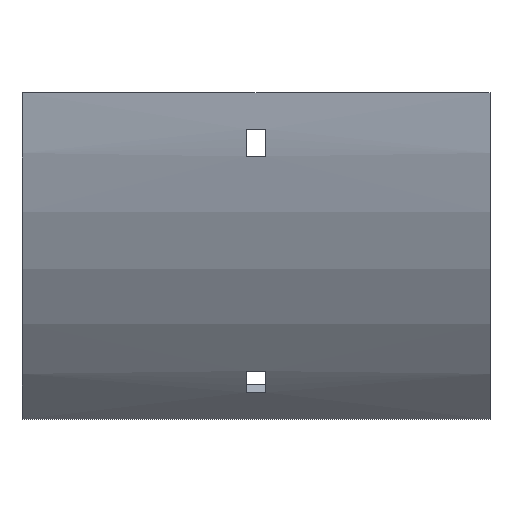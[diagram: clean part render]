
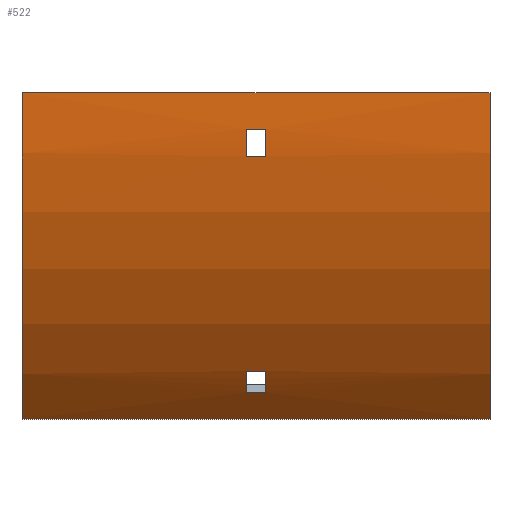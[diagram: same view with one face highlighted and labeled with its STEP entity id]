
A CAD part, front view. The second image highlights one B-rep face of the part: STEP entity #522.
In plain terms, the highlighted cylindrical face has radius 152 mm (diameter 304 mm), a partial arc.
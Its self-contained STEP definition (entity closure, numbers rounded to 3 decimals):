
#2 = LINE ( 'NONE', #364, #858 ) ;
#9 = CARTESIAN_POINT ( 'NONE',  ( -3.25, -21.299, -91.6 ) ) ;
#10 = FACE_OUTER_BOUND ( 'NONE', #1123, .T. ) ;
#12 = VECTOR ( 'NONE', #760, 1000. ) ;
#19 = CARTESIAN_POINT ( 'NONE',  ( -77., -52., 0. ) ) ;
#21 = CARTESIAN_POINT ( 'NONE',  ( -3.25, -50.542, -21. ) ) ;
#25 = CARTESIAN_POINT ( 'NONE',  ( 77., -7.48, -107.48 ) ) ;
#38 = EDGE_CURVE ( 'NONE', #705, #335, #758, .T. ) ;
#60 = EDGE_CURVE ( 'NONE', #719, #1150, #2, .T. ) ;
#67 = AXIS2_PLACEMENT_3D ( 'NONE', #755, #847, #321 ) ;
#87 = LINE ( 'NONE', #174, #186 ) ;
#91 = CARTESIAN_POINT ( 'NONE',  ( 77., 100., 0. ) ) ;
#94 = VERTEX_POINT ( 'NONE', #19 ) ;
#96 = DIRECTION ( 'NONE',  ( 1., 0., 0. ) ) ;
#116 = CARTESIAN_POINT ( 'NONE',  ( 77., -21.299, -91.6 ) ) ;
#140 = LINE ( 'NONE', #672, #12 ) ;
#174 = CARTESIAN_POINT ( 'NONE',  ( 77., -15.63, -98.659 ) ) ;
#178 = EDGE_CURVE ( 'NONE', #94, #1150, #906, .T. ) ;
#185 = AXIS2_PLACEMENT_3D ( 'NONE', #91, #534, #977 ) ;
#186 = VECTOR ( 'NONE', #96, 1000. ) ;
#190 = ORIENTED_EDGE ( 'NONE', *, *, #1007, .F. ) ;
#202 = EDGE_CURVE ( 'NONE', #399, #705, #585, .T. ) ;
#206 = AXIS2_PLACEMENT_3D ( 'NONE', #762, #601, #350 ) ;
#226 = CARTESIAN_POINT ( 'NONE',  ( -3.25, 100., 0. ) ) ;
#247 = VERTEX_POINT ( 'NONE', #21 ) ;
#252 = CIRCLE ( 'NONE', #1065, 152. ) ;
#263 = AXIS2_PLACEMENT_3D ( 'NONE', #443, #794, #358 ) ;
#270 = EDGE_CURVE ( 'NONE', #247, #399, #552, .T. ) ;
#291 = ORIENTED_EDGE ( 'NONE', *, *, #270, .T. ) ;
#321 = DIRECTION ( 'NONE',  ( 0., 0., 1. ) ) ;
#335 = VERTEX_POINT ( 'NONE', #936 ) ;
#345 = AXIS2_PLACEMENT_3D ( 'NONE', #384, #803, #547 ) ;
#350 = DIRECTION ( 'NONE',  ( 0., 0., -1. ) ) ;
#358 = DIRECTION ( 'NONE',  ( 0., 0., -1. ) ) ;
#364 = CARTESIAN_POINT ( 'NONE',  ( 77., -7.48, -107.48 ) ) ;
#384 = CARTESIAN_POINT ( 'NONE',  ( 3.25, 100., 0. ) ) ;
#388 = DIRECTION ( 'NONE',  ( -1., 0., 0. ) ) ;
#394 = DIRECTION ( 'NONE',  ( -1., 0., 0. ) ) ;
#399 = VERTEX_POINT ( 'NONE', #482 ) ;
#406 = VECTOR ( 'NONE', #577, 1000. ) ;
#417 = VERTEX_POINT ( 'NONE', #941 ) ;
#419 = EDGE_CURVE ( 'NONE', #335, #247, #140, .T. ) ;
#421 = ORIENTED_EDGE ( 'NONE', *, *, #419, .T. ) ;
#441 = ORIENTED_EDGE ( 'NONE', *, *, #1127, .F. ) ;
#443 = CARTESIAN_POINT ( 'NONE',  ( 3.25, 100., 0. ) ) ;
#451 = FACE_BOUND ( 'NONE', #903, .T. ) ;
#482 = CARTESIAN_POINT ( 'NONE',  ( -3.25, -51.526, -12. ) ) ;
#522 = ADVANCED_FACE ( 'NONE', ( #10, #795, #451 ), #727, .T. ) ;
#534 = DIRECTION ( 'NONE',  ( -1., 0., 0. ) ) ;
#542 = VERTEX_POINT ( 'NONE', #776 ) ;
#547 = DIRECTION ( 'NONE',  ( 0., 0., 1. ) ) ;
#552 = CIRCLE ( 'NONE', #67, 152. ) ;
#577 = DIRECTION ( 'NONE',  ( 1., 0., 0. ) ) ;
#581 = DIRECTION ( 'NONE',  ( 0., 0., -1. ) ) ;
#585 = LINE ( 'NONE', #999, #406 ) ;
#600 = ORIENTED_EDGE ( 'NONE', *, *, #38, .T. ) ;
#601 = DIRECTION ( 'NONE',  ( 1., 0., 0. ) ) ;
#625 = CARTESIAN_POINT ( 'NONE',  ( 3.25, -51.526, -12. ) ) ;
#672 = CARTESIAN_POINT ( 'NONE',  ( 77., -50.542, -21. ) ) ;
#681 = AXIS2_PLACEMENT_3D ( 'NONE', #832, #737, #1025 ) ;
#703 = EDGE_CURVE ( 'NONE', #417, #542, #842, .T. ) ;
#705 = VERTEX_POINT ( 'NONE', #625 ) ;
#719 = VERTEX_POINT ( 'NONE', #25 ) ;
#726 = CARTESIAN_POINT ( 'NONE',  ( -77., -7.48, -107.48 ) ) ;
#727 = CYLINDRICAL_SURFACE ( 'NONE', #185, 152. ) ;
#735 = EDGE_LOOP ( 'NONE', ( #421, #291, #783, #600 ) ) ;
#737 = DIRECTION ( 'NONE',  ( 1., 0., 0. ) ) ;
#744 = CARTESIAN_POINT ( 'NONE',  ( 77., -52., 0. ) ) ;
#755 = CARTESIAN_POINT ( 'NONE',  ( -3.25, 100., 0. ) ) ;
#758 = CIRCLE ( 'NONE', #263, 152. ) ;
#760 = DIRECTION ( 'NONE',  ( -1., 0., 0. ) ) ;
#762 = CARTESIAN_POINT ( 'NONE',  ( 77., 100., 0. ) ) ;
#767 = VECTOR ( 'NONE', #394, 1000. ) ;
#776 = CARTESIAN_POINT ( 'NONE',  ( 3.25, -21.299, -91.6 ) ) ;
#783 = ORIENTED_EDGE ( 'NONE', *, *, #202, .T. ) ;
#794 = DIRECTION ( 'NONE',  ( 1., 0., 0. ) ) ;
#795 = FACE_BOUND ( 'NONE', #735, .T. ) ;
#803 = DIRECTION ( 'NONE',  ( -1., 0., 0. ) ) ;
#819 = VECTOR ( 'NONE', #388, 1000. ) ;
#823 = EDGE_CURVE ( 'NONE', #542, #1121, #1104, .T. ) ;
#832 = CARTESIAN_POINT ( 'NONE',  ( -77., 100., 0. ) ) ;
#842 = CIRCLE ( 'NONE', #345, 152. ) ;
#847 = DIRECTION ( 'NONE',  ( -1., 0., 0. ) ) ;
#858 = VECTOR ( 'NONE', #1070, 1000. ) ;
#860 = ORIENTED_EDGE ( 'NONE', *, *, #178, .T. ) ;
#899 = EDGE_CURVE ( 'NONE', #1020, #94, #1023, .T. ) ;
#901 = EDGE_CURVE ( 'NONE', #1121, #1043, #252, .T. ) ;
#903 = EDGE_LOOP ( 'NONE', ( #1060, #1034, #1130, #441 ) ) ;
#906 = CIRCLE ( 'NONE', #681, 152. ) ;
#936 = CARTESIAN_POINT ( 'NONE',  ( 3.25, -50.542, -21. ) ) ;
#941 = CARTESIAN_POINT ( 'NONE',  ( 3.25, -15.63, -98.659 ) ) ;
#944 = ORIENTED_EDGE ( 'NONE', *, *, #899, .T. ) ;
#948 = CARTESIAN_POINT ( 'NONE',  ( 77., -52., 0. ) ) ;
#953 = CIRCLE ( 'NONE', #206, 152. ) ;
#977 = DIRECTION ( 'NONE',  ( 0., 0., 1. ) ) ;
#999 = CARTESIAN_POINT ( 'NONE',  ( 77., -51.526, -12. ) ) ;
#1000 = ORIENTED_EDGE ( 'NONE', *, *, #60, .F. ) ;
#1007 = EDGE_CURVE ( 'NONE', #1020, #719, #953, .T. ) ;
#1020 = VERTEX_POINT ( 'NONE', #948 ) ;
#1023 = LINE ( 'NONE', #744, #767 ) ;
#1025 = DIRECTION ( 'NONE',  ( 0., 0., -1. ) ) ;
#1034 = ORIENTED_EDGE ( 'NONE', *, *, #823, .F. ) ;
#1043 = VERTEX_POINT ( 'NONE', #1118 ) ;
#1060 = ORIENTED_EDGE ( 'NONE', *, *, #901, .F. ) ;
#1065 = AXIS2_PLACEMENT_3D ( 'NONE', #226, #1099, #581 ) ;
#1070 = DIRECTION ( 'NONE',  ( -1., 0., 0. ) ) ;
#1099 = DIRECTION ( 'NONE',  ( 1., 0., 0. ) ) ;
#1104 = LINE ( 'NONE', #116, #819 ) ;
#1118 = CARTESIAN_POINT ( 'NONE',  ( -3.25, -15.63, -98.659 ) ) ;
#1121 = VERTEX_POINT ( 'NONE', #9 ) ;
#1123 = EDGE_LOOP ( 'NONE', ( #860, #1000, #190, #944 ) ) ;
#1127 = EDGE_CURVE ( 'NONE', #1043, #417, #87, .T. ) ;
#1130 = ORIENTED_EDGE ( 'NONE', *, *, #703, .F. ) ;
#1150 = VERTEX_POINT ( 'NONE', #726 ) ;
